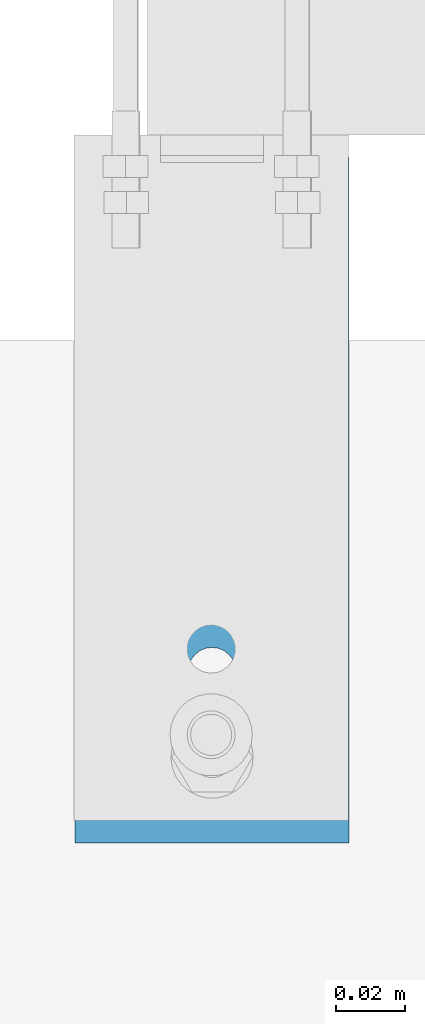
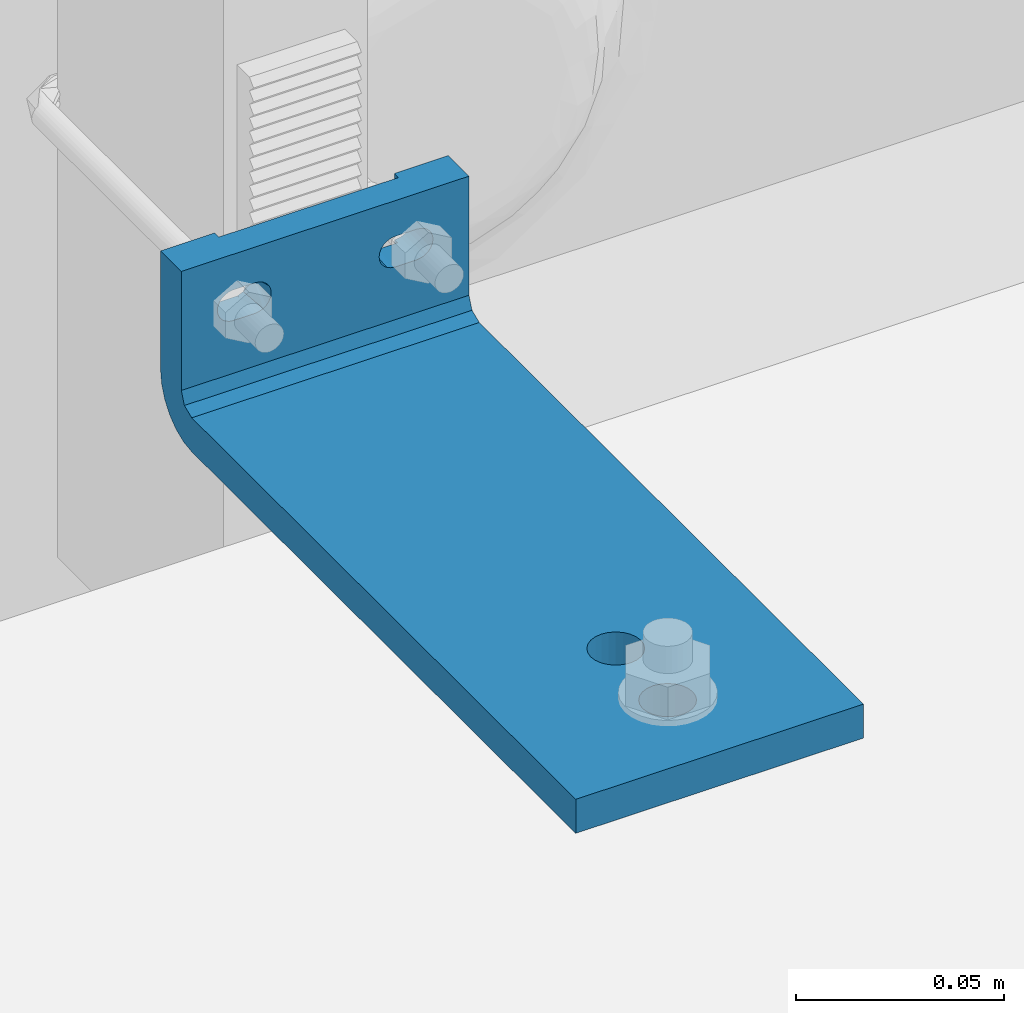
# One storey, part 5 of 13: 1 assembly.
"""IFC2X3 building model written with IfcOpenShell, lengths in metres."""

from ifc_helpers import new_model, entity, si_unit, converted_unit, derived_unit, direction, frame, origin, place, context, subcontext, project, spatial, faceted_brep, source, transform, mapped, material, type_object, type_shapes, element, save


model = new_model("IFC2X3")

# Units and contexts
model_context = context("Model", 3, precision=1e-05, world=origin(), true_north=direction((6.123031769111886e-17, 1.0)))
body_context = subcontext(model_context, "Body", "Model", "MODEL_VIEW")
ifc_project = project(units=[si_unit("LENGTHUNIT", "METRE"), si_unit("AREAUNIT", "SQUARE_METRE"), converted_unit("PLANEANGLEUNIT", "DEGREE", entity("IfcPlaneAngleMeasure", 0.017453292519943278), si_unit("PLANEANGLEUNIT", "RADIAN"), dimensions=[0, 0, 0, 0, 0, 0, 0]), si_unit("VOLUMEUNIT", "CUBIC_METRE"), derived_unit("THERMALTRANSMITTANCEUNIT", [(si_unit("MASSUNIT", "GRAM", prefix="KILO"), 1), (si_unit("THERMODYNAMICTEMPERATUREUNIT", "KELVIN"), -1), (si_unit("TIMEUNIT", "SECOND"), -3)]), derived_unit("USERDEFINED", [(si_unit("MASSUNIT", "GRAM", prefix="KILO"), 1), (si_unit("THERMODYNAMICTEMPERATUREUNIT", "KELVIN"), -1), (si_unit("TIMEUNIT", "SECOND"), -2)]), derived_unit("THERMALRESISTANCEUNIT", [(si_unit("MASSUNIT", "GRAM", prefix="KILO"), -1), (si_unit("TIMEUNIT", "SECOND"), 3), (si_unit("THERMODYNAMICTEMPERATUREUNIT", "KELVIN"), 1)]), derived_unit("MASSDENSITYUNIT", [(si_unit("MASSUNIT", "GRAM", prefix="KILO"), 1), (si_unit("LENGTHUNIT", "METRE"), -3)]), derived_unit("VAPORPERMEABILITYUNIT", [(si_unit("LENGTHUNIT", "METRE"), -1), (si_unit("TIMEUNIT", "SECOND"), 1)]), derived_unit("USERDEFINED", [(si_unit("MASSUNIT", "GRAM", prefix="KILO"), 1), (si_unit("TIMEUNIT", "SECOND"), -3), (si_unit("LENGTHUNIT", "METRE"), 3), (si_unit("ELECTRICCURRENTUNIT", "AMPERE"), -2)]), si_unit("PRESSUREUNIT", "PASCAL")], contexts=[model_context])

# Site, building, storey
site_placement = place(None, origin())
site = spatial("IfcSite", under=ifc_project, at=site_placement, Name="Default", CompositionType="ELEMENT")
building_placement = place(site_placement, origin())
building = spatial("IfcBuilding", under=site, at=building_placement, CompositionType="ELEMENT")
storey_placement = place(building_placement, origin())
storey = spatial("IfcBuildingStorey", under=building, at=storey_placement, Name="L0", CompositionType="ELEMENT", Elevation=0.0)

# Assembly
ifc_material = material(Name="REC_Acero, S 275JR (Zincado)")
type_product = type_object("IfcTypeProduct", Name="REC-PAA2005010R:PAA2005010R", material=ifc_material)
shared_shape = source(origin(), body_context, "Body", "Brep", [
    faceted_brep([(-0.02499999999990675, -0.20000000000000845, 0.027999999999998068), (-0.024999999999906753, -0.20000000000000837, 0.023999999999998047), (-0.024999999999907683, -0.1980000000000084, 0.025999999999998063), (-0.024999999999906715, -0.20000000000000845, 0.04399999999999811), (-0.024999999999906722, -0.20000000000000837, 0.0399999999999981), (-0.024999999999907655, -0.1980000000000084, 0.04199999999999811), (-0.024999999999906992, -0.19953574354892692, 0.011297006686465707), (-0.02499999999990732, -0.19885372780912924, 0.009560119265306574), (-0.024999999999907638, -0.19817171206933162, 0.007823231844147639), (-0.024999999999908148, -0.19708202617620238, 0.006308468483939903), (-0.024999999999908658, -0.19599234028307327, 0.004793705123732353), (-0.024999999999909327, -0.19456243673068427, 0.003594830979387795), (-0.024999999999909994, -0.19313253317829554, 0.0023959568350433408), (-0.024999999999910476, -0.19209194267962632, 0.004110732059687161), (-0.024999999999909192, -0.1948462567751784, 0.0039209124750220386), (-0.024999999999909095, -0.19504072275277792, 0.006742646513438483), (-0.024999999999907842, -0.1977320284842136, 0.007400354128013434), (-0.024999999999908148, -0.1970605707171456, 0.01014792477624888), (-0.024999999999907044, -0.19942908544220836, 0.011585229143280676), (-0.02499999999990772, -0.19796173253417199, 0.01400326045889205), (-0.02499999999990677, -0.20000000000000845, 0.015979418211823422), (-0.02499999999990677, -0.20000000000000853, 0.01499999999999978), (-0.024999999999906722, -0.20000000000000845, 0.03949999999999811), (-0.02499999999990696, -0.1995000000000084, 0.03949999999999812), (-0.02499999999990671, -0.20000000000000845, 0.04799999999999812), (-0.024999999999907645, -0.1980000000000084, 0.04599999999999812), (-0.024999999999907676, -0.1980000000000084, 0.02999999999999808), (-0.024999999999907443, -0.19850000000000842, 0.030499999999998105), (-0.02499999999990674, -0.20000000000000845, 0.030499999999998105), (-0.02499999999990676, -0.20000000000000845, 0.019999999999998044), (-0.024999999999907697, -0.1980000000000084, 0.01799999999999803), (-0.024999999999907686, -0.1980000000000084, 0.021999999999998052), (-0.024999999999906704, -0.20000000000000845, 0.049999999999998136), (-0.024999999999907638, -0.19800000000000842, 0.049999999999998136), (0.02775000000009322, -0.19999999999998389, 0.031102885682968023), (0.026664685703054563, -0.19999999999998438, 0.03065333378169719), (0.02550000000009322, -0.1999999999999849, 0.03049999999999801), (0.025000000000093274, -0.19999999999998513, 0.03049999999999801), (0.025000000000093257, -0.19999999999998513, 0.027999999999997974), (0.025000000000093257, -0.19999999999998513, 0.023999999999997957), (0.025000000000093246, -0.19999999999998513, 0.01999999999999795), (0.02500000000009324, -0.19999999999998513, 0.01597941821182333), (0.02500000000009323, -0.19999999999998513, 0.014999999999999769), (0.04000000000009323, -0.19999999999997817, 0.014999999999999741), (0.040000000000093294, -0.19999999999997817, 0.049999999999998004), (0.025000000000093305, -0.19999999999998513, 0.04999999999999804), (0.0250000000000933, -0.19999999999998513, 0.04799999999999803), (0.025000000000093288, -0.19999999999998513, 0.04399999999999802), (0.025000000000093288, -0.19999999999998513, 0.039999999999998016), (0.02500000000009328, -0.19999999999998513, 0.03949999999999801), (0.02550000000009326, -0.1999999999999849, 0.03949999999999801), (0.026664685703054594, -0.19999999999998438, 0.03934666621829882), (0.027750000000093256, -0.19999999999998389, 0.03889711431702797), (0.028681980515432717, -0.19999999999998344, 0.03818198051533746), (0.02939711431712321, -0.1999999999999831, 0.037249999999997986), (0.029846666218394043, -0.19999999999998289, 0.036164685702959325), (0.030000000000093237, -0.19999999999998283, 0.034999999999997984), (0.029846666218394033, -0.19999999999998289, 0.033835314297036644), (0.029397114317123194, -0.1999999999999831, 0.03274999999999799), (0.028681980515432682, -0.19999999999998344, 0.03181801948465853), (-0.03999999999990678, -0.20000000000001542, 0.014999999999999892), (-0.025499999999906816, -0.20000000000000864, 0.030499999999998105), (-0.026664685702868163, -0.2000000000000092, 0.030653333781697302), (-0.027749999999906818, -0.2000000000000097, 0.031102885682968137), (-0.02868198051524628, -0.20000000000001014, 0.03181801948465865), (-0.029397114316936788, -0.20000000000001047, 0.03274999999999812), (-0.02984666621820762, -0.20000000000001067, 0.033835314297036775), (-0.029999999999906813, -0.20000000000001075, 0.034999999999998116), (-0.029846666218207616, -0.20000000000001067, 0.03616468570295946), (-0.02939711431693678, -0.20000000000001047, 0.037249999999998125), (-0.02868198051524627, -0.20000000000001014, 0.03818198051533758), (-0.0277499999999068, -0.2000000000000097, 0.038897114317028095), (-0.026664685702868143, -0.2000000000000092, 0.03934666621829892), (-0.025499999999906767, -0.20000000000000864, 0.03949999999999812), (-0.03999999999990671, -0.20000000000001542, 0.04999999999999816), (0.02500000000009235, -0.1979999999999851, 0.04199999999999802), (0.025000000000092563, -0.19849999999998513, 0.030499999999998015), (0.02500000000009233, -0.1979999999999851, 0.029999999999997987), (0.02500000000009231, -0.1979999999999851, 0.017999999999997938), (0.025000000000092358, -0.1979999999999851, 0.04599999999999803), (0.02500000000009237, -0.1979999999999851, 0.04999999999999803), (0.02500000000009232, -0.1979999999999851, 0.02599999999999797), (0.025000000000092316, -0.1979999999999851, 0.02199999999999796), (0.025000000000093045, -0.1994999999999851, 0.03949999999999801), (0.02500000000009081, -0.1948462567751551, 0.003920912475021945), (0.02500000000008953, -0.19209194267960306, 0.0041107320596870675), (0.025000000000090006, -0.1931325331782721, 0.0023959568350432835), (0.025000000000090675, -0.194562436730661, 0.003594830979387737), (0.02500000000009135, -0.19599234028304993, 0.004793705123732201), (0.02500000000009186, -0.1970820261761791, 0.006308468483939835), (0.02500000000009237, -0.19817171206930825, 0.007823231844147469), (0.025000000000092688, -0.19885372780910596, 0.009560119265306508), (0.02500000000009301, -0.1995357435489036, 0.01129700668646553), (0.025000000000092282, -0.1979617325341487, 0.014003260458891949), (0.02500000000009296, -0.19942908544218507, 0.011585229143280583), (0.025000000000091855, -0.19706057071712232, 0.010147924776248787), (0.02500000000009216, -0.1977320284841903, 0.007400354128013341), (0.025000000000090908, -0.19504072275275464, 0.00674264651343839), (-0.006040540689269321, -0.028512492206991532, 0.0), (-0.0067373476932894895, -0.026830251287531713, 0.0), (-0.00673734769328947, -0.026830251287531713, 0.009999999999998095), (-0.006040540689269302, -0.028512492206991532, 0.009999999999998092), (-0.006975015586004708, -0.025024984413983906, 0.0), (-0.0069750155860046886, -0.025024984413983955, 0.009999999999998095), (-0.0034875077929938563, -0.031065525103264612, 0.0), (-0.004932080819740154, -0.029957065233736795, 0.0), (-0.004932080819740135, -0.029957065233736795, 0.00999999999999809), (-0.0034875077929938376, -0.031065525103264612, 0.009999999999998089), (-0.001805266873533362, -0.031762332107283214, 0.009999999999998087), (-0.0018052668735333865, -0.03176233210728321, 0.0), (0.0, -0.031999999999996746, 0.009999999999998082), (0.0, -0.031999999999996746, 0.0), (0.001805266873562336, -0.031762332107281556, 0.009999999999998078), (0.0018052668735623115, -0.03176233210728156, 0.0), (0.0034875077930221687, -0.031065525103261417, 0.009999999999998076), (0.0034875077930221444, -0.03106552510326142, 0.0), (0.006040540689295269, -0.028512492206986, 0.0), (0.004932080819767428, -0.029957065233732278, 0.0), (0.0049320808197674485, -0.029957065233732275, 0.009999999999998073), (0.006040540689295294, -0.028512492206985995, 0.009999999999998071), (0.006737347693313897, -0.026830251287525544, 0.0), (0.0067373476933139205, -0.026830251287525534, 0.00999999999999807), (0.006975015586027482, -0.02502498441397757, 0.00999999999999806), (0.006975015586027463, -0.02502498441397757, 0.0), (0.006040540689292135, -0.021537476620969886, 0.0), (0.006737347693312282, -0.023219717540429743, 0.0), (0.0067373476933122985, -0.023219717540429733, 0.00999999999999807), (0.00604054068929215, -0.021537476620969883, 0.009999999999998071), (0.003487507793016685, -0.018984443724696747, 0.0), (0.004932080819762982, -0.020092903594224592, 0.0), (0.004932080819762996, -0.02009290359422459, 0.009999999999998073), (0.0034875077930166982, -0.018984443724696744, 0.009999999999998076), (0.0018052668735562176, -0.01828763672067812, 0.009999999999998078), (0.0018052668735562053, -0.018287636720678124, 0.0), (0.0, -0.018049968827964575, 0.009999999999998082), (0.0, -0.018049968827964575, 0.0), (-0.0018052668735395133, -0.01828763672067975, 0.009999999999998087), (-0.0018052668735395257, -0.01828763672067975, 0.0), (-0.0034875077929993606, -0.018984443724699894, 0.009999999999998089), (-0.0034875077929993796, -0.018984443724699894, 0.0), (-0.006040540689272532, -0.021537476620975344, 0.0), (-0.004932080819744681, -0.020092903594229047, 0.0), (-0.00493208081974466, -0.020092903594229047, 0.00999999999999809), (-0.006040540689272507, -0.021537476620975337, 0.009999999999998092), (-0.006737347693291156, -0.02321971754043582, 0.0), (-0.006737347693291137, -0.02321971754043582, 0.009999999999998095), (-0.006040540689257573, -0.05351249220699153, 0.00999999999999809), (-0.0060405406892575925, -0.05351249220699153, 0.0), (-0.006737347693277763, -0.05183025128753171, 0.0), (-0.00673734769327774, -0.05183025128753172, 0.009999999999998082), (-0.006975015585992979, -0.05002498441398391, 0.0), (-0.00697501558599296, -0.05002498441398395, 0.009999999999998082), (-0.0018052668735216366, -0.05676233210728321, 0.00999999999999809), (-0.001805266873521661, -0.05676233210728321, 0.0), (-0.0034875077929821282, -0.05606552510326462, 0.0), (-0.0034875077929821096, -0.05606552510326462, 0.00999999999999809), (-0.004932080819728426, -0.0549570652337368, 0.0), (-0.004932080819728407, -0.0549570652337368, 0.00999999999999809), (0.0, -0.05699999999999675, 0.009999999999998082), (0.0, -0.05699999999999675, 0.0), (0.004932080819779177, -0.05495706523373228, 0.009999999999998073), (0.004932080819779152, -0.05495706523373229, 0.0), (0.0034875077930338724, -0.05606552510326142, 0.0), (0.0034875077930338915, -0.05606552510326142, 0.009999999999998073), (0.00180526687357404, -0.056762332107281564, 0.0), (0.0018052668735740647, -0.056762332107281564, 0.009999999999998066), (0.00697501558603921, -0.05002498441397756, 0.009999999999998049), (0.006975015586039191, -0.05002498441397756, 0.0), (0.006737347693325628, -0.051830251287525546, 0.0), (0.006737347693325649, -0.05183025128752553, 0.009999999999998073), (0.006040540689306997, -0.053512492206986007, 0.0), (0.0060405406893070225, -0.05351249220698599, 0.009999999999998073), (0.006040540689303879, -0.04653747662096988, 0.009999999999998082), (0.006040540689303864, -0.04653747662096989, 0.0), (0.006737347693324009, -0.04821971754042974, 0.0), (0.006737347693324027, -0.04821971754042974, 0.009999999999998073), (0.0018052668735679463, -0.043287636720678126, 0.009999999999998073), (0.0018052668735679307, -0.043287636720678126, 0.0), (0.0034875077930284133, -0.043984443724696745, 0.0), (0.003487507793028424, -0.04398444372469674, 0.009999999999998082), (0.004932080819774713, -0.0450929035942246, 0.0), (0.004932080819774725, -0.04509290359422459, 0.009999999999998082), (0.0, -0.04304996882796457, 0.00999999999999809), (0.0, -0.04304996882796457, 0.0), (-0.004932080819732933, -0.04509290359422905, 0.009999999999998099), (-0.004932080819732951, -0.04509290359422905, 0.0), (-0.003487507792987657, -0.043984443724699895, 0.0), (-0.0034875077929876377, -0.043984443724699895, 0.009999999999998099), (-0.0018052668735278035, -0.043287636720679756, 0.0), (-0.0018052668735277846, -0.043287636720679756, 0.00999999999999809), (-0.006737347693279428, -0.04821971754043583, 0.0), (-0.006737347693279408, -0.04821971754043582, 0.00999999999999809), (-0.0060405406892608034, -0.04653747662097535, 0.0), (-0.006040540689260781, -0.04653747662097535, 0.009999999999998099), (-0.03999999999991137, -0.19000000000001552, 0.04999999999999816), (-0.039999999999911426, -0.19000000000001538, 0.014999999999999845), (-0.03999999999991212, -0.1885355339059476, 0.011464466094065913), (-0.03999999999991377, -0.18500000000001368, 0.009999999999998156), (-0.03999999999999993, 0.0, 0.009999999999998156), (-0.03999999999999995, 0.0, 0.0), (-0.039999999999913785, -0.18500000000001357, 0.0), (-0.039999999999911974, -0.18888228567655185, 0.000511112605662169), (-0.039999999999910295, -0.19250000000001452, 0.002009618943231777), (-0.039999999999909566, -0.19405330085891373, 0.003201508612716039), (-0.03999999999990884, -0.19560660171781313, 0.004393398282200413), (-0.03999999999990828, -0.1967984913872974, 0.005946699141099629), (-0.03999999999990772, -0.1979903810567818, 0.007499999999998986), (-0.039999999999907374, -0.1987396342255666, 0.0093088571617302), (-0.03999999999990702, -0.19948888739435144, 0.011117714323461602), (0.04000000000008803, -0.1888822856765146, 0.0005111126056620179), (0.04000000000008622, -0.18499999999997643, 0.0), (0.04000000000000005, 0.0, 0.0), (0.04000000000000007, 0.0, 0.009999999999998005), (0.04000000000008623, -0.18499999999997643, 0.009999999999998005), (0.04000000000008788, -0.18853553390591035, 0.011464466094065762), (0.040000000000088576, -0.18999999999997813, 0.014999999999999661), (0.04000000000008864, -0.18999999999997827, 0.049999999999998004), (0.04000000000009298, -0.1994888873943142, 0.011117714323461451), (0.04000000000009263, -0.19873963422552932, 0.009308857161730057), (0.04000000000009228, -0.19799038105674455, 0.007499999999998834), (0.040000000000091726, -0.19679849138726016, 0.005946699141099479), (0.040000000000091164, -0.19560660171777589, 0.004393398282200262), (0.040000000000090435, -0.19405330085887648, 0.0032015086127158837), (0.04000000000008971, -0.19249999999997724, 0.0020096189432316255), (0.0, -0.1849999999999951, 0.009999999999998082), (-0.026664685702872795, -0.19000000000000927, 0.03934666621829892), (-0.027749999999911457, -0.19000000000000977, 0.038897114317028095), (-0.025499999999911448, -0.19000000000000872, 0.03949999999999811), (-0.028681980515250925, -0.19000000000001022, 0.03818198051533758), (-0.029397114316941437, -0.19000000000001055, 0.037249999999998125), (-0.029846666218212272, -0.19000000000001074, 0.03616468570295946), (-0.02999999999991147, -0.19000000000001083, 0.03499999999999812), (-0.019499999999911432, -0.19000000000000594, 0.03949999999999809), (-0.018335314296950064, -0.19000000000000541, 0.03934666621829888), (0.018335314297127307, -0.18999999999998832, 0.039346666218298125), (0.019500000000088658, -0.18999999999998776, 0.03949999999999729), (0.025500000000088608, -0.18999999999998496, 0.03949999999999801), (0.02666468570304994, -0.18999999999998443, 0.039346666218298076), (0.027750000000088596, -0.1899999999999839, 0.03889711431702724), (0.028681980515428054, -0.1899999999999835, 0.03818198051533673), (0.02939711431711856, -0.18999999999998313, 0.03724999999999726), (0.02984666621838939, -0.18999999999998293, 0.0361646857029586), (0.030000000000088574, -0.18999999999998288, 0.03499999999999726), (0.02984666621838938, -0.18999999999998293, 0.03383531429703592), (0.02939711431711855, -0.18999999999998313, 0.03274999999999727), (0.028681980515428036, -0.1899999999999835, 0.03181801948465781), (0.02775000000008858, -0.18999999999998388, 0.031102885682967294), (0.026664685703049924, -0.18999999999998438, 0.030653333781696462), (0.02550000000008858, -0.18999999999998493, 0.030499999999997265), (0.019500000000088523, -0.18999999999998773, 0.03049999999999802), (0.018335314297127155, -0.1899999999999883, 0.030653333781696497), (-0.000961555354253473, -0.18999999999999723, 0.014999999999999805), (-0.029846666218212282, -0.19000000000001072, 0.033835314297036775), (-0.02939711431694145, -0.19000000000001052, 0.03274999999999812), (-0.028681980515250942, -0.19000000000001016, 0.03181801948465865), (-0.027749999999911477, -0.19000000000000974, 0.031102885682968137), (-0.026664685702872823, -0.19000000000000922, 0.030653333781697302), (-0.025499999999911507, -0.1900000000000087, 0.030499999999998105), (-0.019499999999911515, -0.19000000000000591, 0.03049999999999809), (-0.018335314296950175, -0.19000000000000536, 0.03065333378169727), (-0.017249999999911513, -0.19000000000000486, 0.031102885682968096), (0.017250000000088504, -0.1899999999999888, 0.03110288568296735), (0.01725000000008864, -0.18999999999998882, 0.03889711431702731), (-0.01724999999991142, -0.1900000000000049, 0.03889711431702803), (0.016318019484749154, -0.18999999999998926, 0.03818198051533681), (-0.01631801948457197, -0.19000000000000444, 0.03818198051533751), (-0.015602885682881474, -0.1900000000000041, 0.03724999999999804), (0.015602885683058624, -0.18999999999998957, 0.03724999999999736), (-0.015153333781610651, -0.1900000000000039, 0.03616468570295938), (0.015153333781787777, -0.18999999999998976, 0.03616468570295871), (-0.014999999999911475, -0.1900000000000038, 0.03499999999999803), (0.015000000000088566, -0.18999999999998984, 0.03499999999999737), (0.015153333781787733, -0.18999999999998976, 0.03383531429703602), (-0.01515333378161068, -0.1900000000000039, 0.0338353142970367), (0.015602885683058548, -0.18999999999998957, 0.03274999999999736), (-0.015602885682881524, -0.19000000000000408, 0.03274999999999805), (0.016318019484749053, -0.18999999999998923, 0.03181801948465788), (-0.016318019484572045, -0.19000000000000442, 0.031818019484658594), (0.010113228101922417, -0.18855360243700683, 0.011482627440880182), (-0.019499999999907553, -0.19850000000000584, 0.0304999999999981), (0.019500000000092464, -0.19849999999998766, 0.030499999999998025), (-0.015112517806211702, -0.19800000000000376, 0.033999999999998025), (-0.017662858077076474, -0.19889209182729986, 0.030892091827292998), (-0.015502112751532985, -0.199065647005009, 0.03293435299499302), (-0.016145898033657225, -0.2000000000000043, 0.031999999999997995), (-0.01614589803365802, -0.19800000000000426, 0.03799999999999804), (-0.01949999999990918, -0.1947500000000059, 0.03949999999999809), (-0.014999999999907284, -0.19900000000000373, 0.03499999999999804), (-0.015502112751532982, -0.19893435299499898, 0.03706564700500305), (-0.015112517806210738, -0.2000000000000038, 0.035999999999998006), (-0.01766285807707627, -0.19910790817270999, 0.03910790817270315), (-0.019499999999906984, -0.1995000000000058, 0.03949999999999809), (0.01950000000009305, -0.19949999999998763, 0.039499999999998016), (0.019500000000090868, -0.19475000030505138, 0.03949999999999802), (0.016145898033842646, -0.19799999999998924, 0.03799999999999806), (0.01766285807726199, -0.19910790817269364, 0.03910790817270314), (0.015112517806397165, -0.19999999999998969, 0.03599999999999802), (0.01500000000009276, -0.19899999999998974, 0.03499999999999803), (0.015502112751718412, -0.19893435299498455, 0.037065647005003), (0.015112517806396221, -0.1979999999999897, 0.03399999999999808), (0.015502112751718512, -0.19906564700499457, 0.03293435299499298), (0.01766285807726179, -0.19889209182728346, 0.030892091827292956), (0.01614589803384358, -0.19999999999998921, 0.03199999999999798)], [[[0, 1, 2]], [[3, 4, 5]], [[6, 7, 8, 9, 10, 11, 12, 13, 14, 15, 16, 17, 18, 19, 20, 21]], [[4, 22, 23]], [[24, 3, 25]], [[0, 26, 27, 28]], [[29, 20, 30]], [[1, 29, 31]], [[32, 24, 33]], [[34, 35, 36, 37, 38, 39, 40, 41, 42, 43, 44, 45, 46, 47, 48, 49, 50, 51, 52, 53, 54, 55, 56, 57, 58, 59]], [[60, 21, 20, 29, 1, 0, 28, 61, 62, 63, 64, 65, 66, 67, 68, 69, 70, 71, 72, 73, 22, 4, 3, 24, 32, 74]], [[47, 75, 48]], [[76, 77, 38, 37]], [[40, 78, 41]], [[46, 79, 47]], [[45, 80, 46]], [[38, 81, 39]], [[39, 82, 40]], [[48, 83, 49]], [[84, 85, 86, 87, 88, 89, 90, 91, 92, 42, 41, 93, 94, 95, 96, 97]], [[98, 99, 100, 101]], [[100, 99, 102, 103]], [[104, 105, 106, 107]], [[106, 105, 98, 101]], [[108, 109, 104, 107]], [[109, 108, 110, 111]], [[111, 110, 112, 113]], [[113, 112, 114, 115]], [[116, 117, 118, 119]], [[118, 117, 115, 114]], [[120, 116, 119, 121]], [[120, 121, 122, 123]], [[124, 125, 126, 127]], [[126, 125, 123, 122]], [[128, 129, 130, 131]], [[130, 129, 124, 127]], [[132, 133, 128, 131]], [[133, 132, 134, 135]], [[135, 134, 136, 137]], [[137, 136, 138, 139]], [[140, 141, 142, 143]], [[142, 141, 139, 138]], [[144, 140, 143, 145]], [[144, 145, 103, 102]], [[146, 147, 148, 149]], [[149, 148, 150, 151]], [[152, 153, 154, 155]], [[155, 154, 156, 157]], [[157, 156, 147, 146]], [[152, 158, 159, 153]], [[160, 161, 162, 163]], [[163, 162, 164, 165]], [[166, 167, 168, 169]], [[169, 168, 170, 171]], [[171, 170, 161, 160]], [[159, 158, 165, 164]], [[172, 173, 174, 175]], [[175, 174, 167, 166]], [[176, 177, 178, 179]], [[179, 178, 180, 181]], [[181, 180, 173, 172]], [[176, 182, 183, 177]], [[184, 185, 186, 187]], [[187, 186, 188, 189]], [[151, 150, 190, 191]], [[191, 190, 192, 193]], [[193, 192, 185, 184]], [[183, 182, 189, 188]], [[74, 194, 195, 196, 197, 198, 199, 200, 201, 202, 203, 204, 205, 206, 207, 208, 60]], [[209, 210, 211, 212, 213, 214, 215, 216, 44, 43, 217, 218, 219, 220, 221, 222, 223]], [[197, 146, 149]], [[146, 197, 157]], [[198, 197, 149]], [[155, 157, 197]], [[152, 155, 197]], [[158, 152, 197]], [[158, 197, 224]], [[158, 224, 213]], [[165, 158, 213]], [[163, 165, 213]], [[160, 163, 213]], [[213, 171, 160]], [[171, 213, 169]], [[212, 169, 213]], [[166, 169, 212]], [[212, 175, 166]], [[212, 121, 175]], [[122, 121, 212]], [[212, 126, 122]], [[126, 212, 127]], [[130, 127, 212]], [[130, 212, 131]], [[132, 131, 212]], [[134, 132, 212]], [[134, 212, 198]], [[198, 149, 151]], [[198, 151, 191]], [[100, 198, 191]], [[100, 103, 198]], [[145, 198, 103]], [[198, 145, 143]], [[198, 143, 142]], [[142, 138, 198]], [[138, 136, 198]], [[198, 136, 134]], [[172, 175, 121]], [[119, 172, 121]], [[118, 172, 119]], [[118, 181, 172]], [[118, 114, 181]], [[114, 179, 181]], [[114, 112, 179]], [[179, 112, 176]], [[112, 110, 176]], [[110, 182, 176]], [[110, 189, 182]], [[108, 189, 110]], [[187, 189, 108]], [[187, 108, 107]], [[184, 187, 107]], [[107, 106, 184]], [[193, 184, 106]], [[106, 101, 193]], [[193, 101, 100]], [[191, 193, 100]], [[199, 198, 212, 211]], [[199, 140, 144]], [[140, 199, 141]], [[199, 144, 102]], [[102, 99, 199]], [[199, 99, 190]], [[139, 141, 199]], [[137, 139, 199]], [[199, 135, 137]], [[150, 199, 190]], [[148, 199, 150]], [[200, 199, 148]], [[135, 199, 211]], [[133, 135, 211]], [[128, 133, 211]], [[211, 129, 128]], [[129, 211, 124]], [[124, 211, 125]], [[123, 125, 211]], [[120, 123, 211]], [[211, 174, 120]], [[167, 174, 211]], [[211, 168, 167]], [[210, 168, 211]], [[200, 159, 210]], [[170, 168, 210]], [[170, 210, 161]], [[162, 161, 210]], [[164, 162, 210]], [[164, 210, 159]], [[153, 159, 200]], [[174, 173, 120]], [[173, 116, 120]], [[116, 173, 117]], [[117, 173, 180]], [[115, 117, 180]], [[178, 115, 180]], [[113, 115, 178]], [[113, 178, 177]], [[113, 177, 111]], [[177, 183, 111]], [[183, 188, 111]], [[109, 111, 188]], [[188, 186, 109]], [[104, 109, 186]], [[186, 185, 104]], [[185, 105, 104]], [[192, 105, 185]], [[98, 192, 99]], [[98, 105, 192]], [[192, 190, 99]], [[200, 148, 147]], [[200, 147, 156]], [[156, 154, 200]], [[154, 153, 200]], [[209, 201, 200, 210]], [[86, 209, 223]], [[222, 87, 86]], [[87, 221, 88]], [[219, 90, 89]], [[208, 7, 6]], [[201, 209, 86, 12]], [[201, 12, 202]], [[217, 91, 218]], [[204, 203, 11]], [[206, 9, 8]], [[204, 10, 205]], [[12, 203, 202]], [[204, 11, 10]], [[207, 8, 7]], [[92, 91, 217]], [[218, 91, 90]], [[86, 223, 222]], [[92, 43, 42]], [[6, 21, 60]], [[43, 92, 217]], [[203, 12, 11]], [[219, 89, 220]], [[88, 221, 220]], [[206, 8, 207]], [[9, 206, 205]], [[7, 208, 207]], [[90, 219, 218]], [[205, 10, 9]], [[6, 60, 208]], [[221, 87, 222]], [[88, 220, 89]], [[74, 32, 33, 80, 45, 44, 216, 194]], [[194, 225, 226]], [[225, 194, 227]], [[194, 226, 228]], [[228, 229, 194]], [[230, 194, 229]], [[230, 231, 194]], [[194, 231, 195]], [[232, 227, 194]], [[233, 232, 194]], [[233, 194, 234]], [[194, 216, 234]], [[235, 234, 216]], [[236, 235, 216]], [[216, 237, 236]], [[237, 216, 238]], [[238, 216, 239]], [[240, 239, 216]], [[240, 216, 241]], [[242, 241, 216]], [[216, 215, 242]], [[243, 242, 215]], [[244, 243, 215]], [[245, 244, 215]], [[215, 246, 245]], [[246, 215, 247]], [[248, 247, 215]], [[248, 215, 249]], [[250, 249, 215]], [[250, 215, 251]], [[250, 251, 195]], [[252, 195, 231]], [[252, 253, 195]], [[253, 254, 195]], [[255, 195, 254]], [[195, 255, 256]], [[256, 257, 195]], [[195, 257, 258]], [[258, 259, 195]], [[195, 259, 250]], [[250, 259, 260]], [[250, 260, 261]], [[262, 233, 234]], [[263, 233, 262]], [[262, 264, 263]], [[265, 263, 264]], [[265, 264, 266]], [[267, 266, 264]], [[268, 266, 267]], [[267, 269, 268]], [[268, 269, 270]], [[269, 271, 270]], [[271, 272, 270]], [[273, 270, 272]], [[272, 274, 273]], [[275, 273, 274]], [[274, 276, 275]], [[275, 276, 277]], [[276, 261, 277]], [[260, 277, 261]], [[278, 214, 213]], [[196, 224, 197]], [[196, 278, 224]], [[196, 195, 251]], [[251, 215, 278]], [[224, 278, 213]], [[251, 278, 196]], [[214, 278, 215]], [[61, 28, 27, 279, 258, 257]], [[37, 36, 248, 249, 280, 76]], [[258, 279, 259]], [[259, 279, 260]], [[275, 277, 281]], [[281, 277, 260]], [[273, 275, 281]], [[282, 260, 279]], [[283, 282, 284]], [[285, 286, 266]], [[282, 283, 281]], [[281, 287, 288]], [[282, 281, 260]], [[270, 273, 281]], [[268, 281, 285]], [[268, 285, 266]], [[286, 263, 265]], [[266, 286, 265]], [[286, 233, 263]], [[289, 288, 287]], [[288, 285, 281]], [[285, 290, 286]], [[291, 286, 290]], [[232, 233, 286]], [[281, 268, 270]], [[22, 73, 227, 232, 286, 291, 23]], [[50, 49, 83, 292, 293, 235, 236]], [[226, 225, 72, 71]], [[225, 227, 73, 72]], [[229, 228, 70, 69]], [[70, 228, 226, 71]], [[229, 69, 68, 230]], [[230, 68, 67, 231]], [[231, 67, 66, 252]], [[252, 66, 65, 253]], [[254, 64, 63, 255]], [[253, 65, 64, 254]], [[255, 63, 62, 256]], [[256, 62, 61, 257]], [[294, 293, 295]], [[262, 293, 264]], [[234, 293, 262]], [[294, 269, 267]], [[293, 294, 267]], [[264, 293, 267]], [[292, 295, 293]], [[234, 235, 293]], [[296, 297, 298]], [[298, 297, 299]], [[294, 298, 299]], [[299, 269, 294]], [[299, 276, 274]], [[299, 274, 272]], [[280, 249, 250]], [[280, 250, 261]], [[299, 261, 276]], [[300, 301, 299]], [[272, 271, 299]], [[269, 299, 271]], [[300, 302, 301]], [[261, 299, 301]], [[261, 301, 280]], [[34, 246, 247, 35]], [[35, 247, 248, 36]], [[57, 243, 244, 58]], [[58, 244, 245, 59]], [[59, 245, 246, 34]], [[243, 57, 56, 242]], [[241, 55, 54, 240]], [[240, 54, 53, 239]], [[237, 238, 52, 51]], [[52, 238, 239, 53]], [[236, 237, 51, 50]], [[242, 56, 55, 241]], [[86, 85, 13, 12]], [[46, 80, 33, 24]], [[79, 46, 24, 25]], [[79, 25, 3, 47]], [[75, 47, 3, 5]], [[75, 5, 4, 48]], [[291, 290, 285, 294, 295, 292, 83, 48, 4, 23]], [[294, 285, 288, 289, 296, 298]], [[296, 289, 287, 281, 299, 297]], [[300, 299, 281, 283, 284, 302]], [[301, 302, 284, 282, 279, 27, 26, 77, 76, 280]], [[77, 26, 0, 38]], [[81, 38, 0, 2]], [[81, 2, 1, 39]], [[39, 1, 31, 82]], [[82, 31, 29, 40]], [[40, 29, 30, 78]], [[41, 78, 30, 20]], [[93, 41, 20, 19]], [[94, 93, 19, 18]], [[95, 94, 18, 17]], [[95, 17, 16, 96]], [[96, 16, 15, 97]], [[97, 15, 14, 84]], [[84, 14, 13, 85]]]),
])
type_shapes(type_product, [shared_shape])
assembly_placement = place(storey_placement, frame((4.956482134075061, 15.788030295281, 0.0), z_axis=(0.0, 0.0, 1.0), x_axis=(-1.0, 0.0, 0.0)))
element("IfcElementAssembly", 1, at=assembly_placement, inside=storey, type_object=type_product, material=ifc_material, Name="REC-PAA2005010R:PAA2005010R", ObjectType="REC-PAA2005010R:PAA2005010R", AssemblyPlace="NOTDEFINED", PredefinedType="NOTDEFINED", context=body_context, shape_type="MappedRepresentation", body=[
    mapped(shared_shape, transform((0.0, 0.0, 0.0), scale=1.0)),
])

save(model, "model.ifc")
